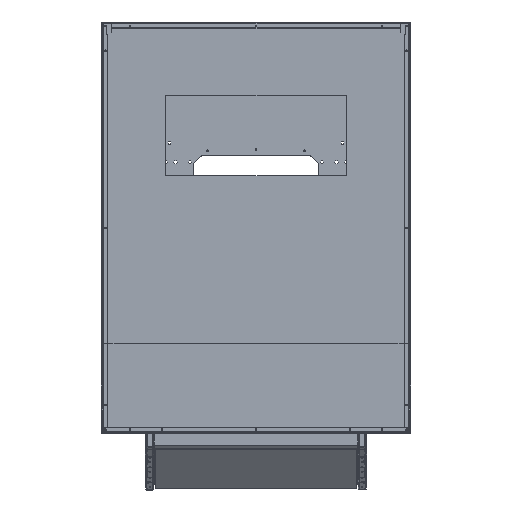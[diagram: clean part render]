
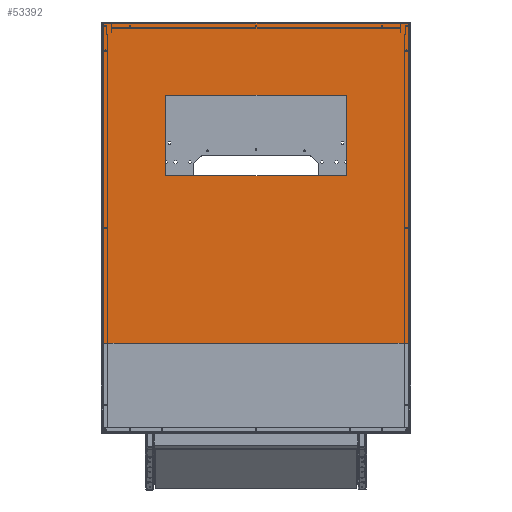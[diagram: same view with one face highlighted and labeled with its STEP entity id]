
A CAD part, top view. The second image highlights one B-rep face of the part: STEP entity #53392.
In plain terms, the highlighted planar face has unit normal (0, 0, 1).
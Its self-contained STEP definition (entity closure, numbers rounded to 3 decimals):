
#19158=ORIENTED_EDGE('',*,*,#27199,.F.);
#19159=ORIENTED_EDGE('',*,*,#27200,.F.);
#19160=ORIENTED_EDGE('',*,*,#27201,.F.);
#19161=ORIENTED_EDGE('',*,*,#27202,.F.);
#19162=ORIENTED_EDGE('',*,*,#27203,.F.);
#19163=ORIENTED_EDGE('',*,*,#27204,.F.);
#19164=ORIENTED_EDGE('',*,*,#27205,.F.);
#19165=ORIENTED_EDGE('',*,*,#27206,.F.);
#19166=ORIENTED_EDGE('',*,*,#27207,.F.);
#19167=ORIENTED_EDGE('',*,*,#27208,.F.);
#27199=EDGE_CURVE('',#32270,#32271,#36926,.T.);
#27200=EDGE_CURVE('',#32272,#32270,#36927,.T.);
#27201=EDGE_CURVE('',#32273,#32272,#36928,.T.);
#27202=EDGE_CURVE('',#32271,#32273,#36929,.T.);
#27203=EDGE_CURVE('',#32245,#32234,#36930,.T.);
#27204=EDGE_CURVE('',#32274,#32245,#36931,.T.);
#27205=EDGE_CURVE('',#32263,#32274,#36932,.T.);
#27206=EDGE_CURVE('',#32267,#32263,#36933,.T.);
#27207=EDGE_CURVE('',#32275,#32267,#36934,.T.);
#27208=EDGE_CURVE('',#32234,#32275,#36935,.T.);
#32234=VERTEX_POINT('',#96511);
#32245=VERTEX_POINT('',#96534);
#32263=VERTEX_POINT('',#96575);
#32267=VERTEX_POINT('',#96585);
#32270=VERTEX_POINT('',#96594);
#32271=VERTEX_POINT('',#96595);
#32272=VERTEX_POINT('',#96597);
#32273=VERTEX_POINT('',#96599);
#32274=VERTEX_POINT('',#96603);
#32275=VERTEX_POINT('',#96607);
#36926=LINE('',#96593,#41569);
#36927=LINE('',#96596,#41570);
#36928=LINE('',#96598,#41571);
#36929=LINE('',#96600,#41572);
#36930=LINE('',#96601,#41573);
#36931=LINE('',#96602,#41574);
#36932=LINE('',#96604,#41575);
#36933=LINE('',#96605,#41576);
#36934=LINE('',#96606,#41577);
#36935=LINE('',#96608,#41578);
#41569=VECTOR('',#74230,1000.);
#41570=VECTOR('',#74231,1000.);
#41571=VECTOR('',#74232,1000.);
#41572=VECTOR('',#74233,1000.);
#41573=VECTOR('',#74234,1000.);
#41574=VECTOR('',#74235,1000.);
#41575=VECTOR('',#74236,1000.);
#41576=VECTOR('',#74237,1000.);
#41577=VECTOR('',#74238,1000.);
#41578=VECTOR('',#74239,1000.);
#45256=EDGE_LOOP('',(#19158,#19159,#19160,#19161));
#45257=EDGE_LOOP('',(#19162,#19163,#19164,#19165,#19166,#19167));
#48913=FACE_BOUND('',#45256,.T.);
#48914=FACE_BOUND('',#45257,.T.);
#50503=PLANE('',#59635);
#53392=ADVANCED_FACE('',(#48913,#48914),#50503,.F.);
#59635=AXIS2_PLACEMENT_3D('',#96592,#74228,#74229);
#74228=DIRECTION('',(0.,0.,-1.));
#74229=DIRECTION('',(-1.,0.,0.));
#74230=DIRECTION('',(0.,-1.,0.));
#74231=DIRECTION('',(-1.,0.,0.));
#74232=DIRECTION('',(0.,1.,0.));
#74233=DIRECTION('',(1.,0.,0.));
#74234=DIRECTION('',(-1.,0.,0.));
#74235=DIRECTION('',(-1.,0.,0.));
#74236=DIRECTION('',(0.,-1.,0.));
#74237=DIRECTION('',(1.,0.,0.));
#74238=DIRECTION('',(0.,1.,0.));
#74239=DIRECTION('',(-1.,0.,0.));
#96511=CARTESIAN_POINT('',(-345.4,-398.9,0.7));
#96534=CARTESIAN_POINT('',(345.4,-398.9,0.7));
#96575=CARTESIAN_POINT('',(384.4,398.9,0.7));
#96585=CARTESIAN_POINT('',(-384.4,398.9,0.7));
#96592=CARTESIAN_POINT('',(0.,0.,0.7));
#96593=CARTESIAN_POINT('',(-225.,217.602,0.7));
#96594=CARTESIAN_POINT('',(-225.,217.602,0.7));
#96595=CARTESIAN_POINT('',(-225.,17.602,0.7));
#96596=CARTESIAN_POINT('',(225.,217.602,0.7));
#96597=CARTESIAN_POINT('',(225.,217.602,0.7));
#96598=CARTESIAN_POINT('',(225.,17.602,0.7));
#96599=CARTESIAN_POINT('',(225.,17.602,0.7));
#96600=CARTESIAN_POINT('',(-225.,17.602,0.7));
#96601=CARTESIAN_POINT('',(765.4,-398.9,0.7));
#96602=CARTESIAN_POINT('',(384.4,-398.9,0.7));
#96603=CARTESIAN_POINT('',(384.4,-398.9,0.7));
#96604=CARTESIAN_POINT('',(384.4,398.9,0.7));
#96605=CARTESIAN_POINT('',(-765.4,398.9,0.7));
#96606=CARTESIAN_POINT('',(-384.4,-398.9,0.7));
#96607=CARTESIAN_POINT('',(-384.4,-398.9,0.7));
#96608=CARTESIAN_POINT('',(-382.4,-398.9,0.7));
